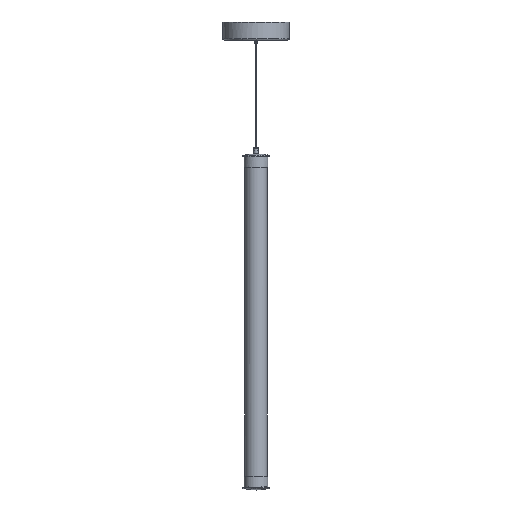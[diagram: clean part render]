
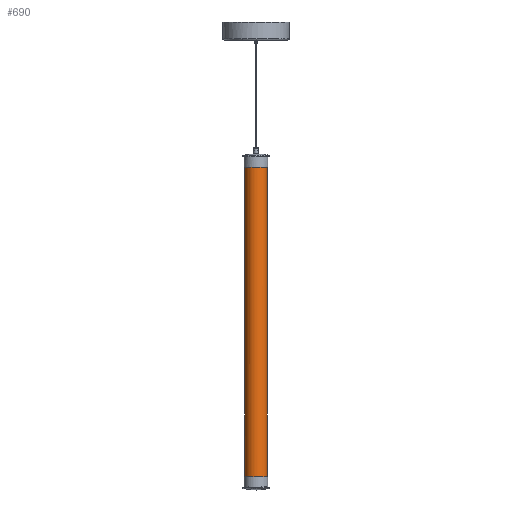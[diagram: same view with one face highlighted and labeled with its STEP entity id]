
A CAD part, front view. The second image highlights one B-rep face of the part: STEP entity #690.
In plain terms, the highlighted cylindrical face has radius 30 mm (diameter 60 mm), a partial arc.
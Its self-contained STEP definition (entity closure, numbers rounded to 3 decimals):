
#690=ADVANCED_FACE('',(#1355),#11094,.T.);
#1355=FACE_OUTER_BOUND('',#2038,.T.);
#2038=EDGE_LOOP('',(#3294,#3295,#3296,#3297));
#3294=ORIENTED_EDGE('',*,*,#6332,.T.);
#3295=ORIENTED_EDGE('',*,*,#6327,.T.);
#3296=ORIENTED_EDGE('',*,*,#6326,.T.);
#3297=ORIENTED_EDGE('',*,*,#6331,.F.);
#6326=EDGE_CURVE('',#9736,#9740,#7950,.T.);
#6327=EDGE_CURVE('',#9733,#9736,#8869,.T.);
#6331=EDGE_CURVE('',#9739,#9740,#8871,.T.);
#6332=EDGE_CURVE('',#9739,#9733,#7953,.T.);
#7950=(
BOUNDED_CURVE()
B_SPLINE_CURVE(2,(#13791,#13792,#13793,#13794,#13795),.UNSPECIFIED.,.F.,
 .F.)
B_SPLINE_CURVE_WITH_KNOTS((3,2,3),(0.,47.124,94.248),
 .UNSPECIFIED.)
CURVE()
GEOMETRIC_REPRESENTATION_ITEM()
RATIONAL_B_SPLINE_CURVE((1.,0.707,1.,0.707,1.))
REPRESENTATION_ITEM('')
);
#7953=(
BOUNDED_CURVE()
B_SPLINE_CURVE(2,(#13812,#13813,#13814,#13815,#13816),.UNSPECIFIED.,.F.,
 .F.)
B_SPLINE_CURVE_WITH_KNOTS((3,2,3),(94.248,141.372,188.496),
 .UNSPECIFIED.)
CURVE()
GEOMETRIC_REPRESENTATION_ITEM()
RATIONAL_B_SPLINE_CURVE((1.,0.707,1.,0.707,1.))
REPRESENTATION_ITEM('')
);
#8869=B_SPLINE_CURVE_WITH_KNOTS('',1,(#13796,#13797),.UNSPECIFIED.,.F.,
 .F.,(2,2),(87.22,958.22),.UNSPECIFIED.);
#8871=B_SPLINE_CURVE_WITH_KNOTS('',1,(#13810,#13811),.UNSPECIFIED.,.F.,
 .F.,(2,2),(87.22,958.22),.UNSPECIFIED.);
#9733=VERTEX_POINT('',#13766);
#9736=VERTEX_POINT('',#13769);
#9739=VERTEX_POINT('',#13772);
#9740=VERTEX_POINT('',#13773);
#11094=CYLINDRICAL_SURFACE('',#11473,30.);
#11473=AXIS2_PLACEMENT_3D('',#13765,#12010,$);
#12010=DIRECTION('',(0.,0.,-1.));
#13765=CARTESIAN_POINT('',(0.,0.,-818.564));
#13766=CARTESIAN_POINT('',(-30.,0.,-383.064));
#13769=CARTESIAN_POINT('',(-30.,0.,-1254.064));
#13772=CARTESIAN_POINT('',(30.,0.,-383.064));
#13773=CARTESIAN_POINT('',(30.,0.,-1254.064));
#13791=CARTESIAN_POINT('',(-30.,0.,-1254.064));
#13792=CARTESIAN_POINT('',(-30.,-30.,-1254.064));
#13793=CARTESIAN_POINT('',(0.,-30.,-1254.064));
#13794=CARTESIAN_POINT('',(30.,-30.,-1254.064));
#13795=CARTESIAN_POINT('',(30.,0.,-1254.064));
#13796=CARTESIAN_POINT('',(-30.,0.,-383.064));
#13797=CARTESIAN_POINT('',(-30.,0.,-1254.064));
#13810=CARTESIAN_POINT('',(30.,0.,-383.064));
#13811=CARTESIAN_POINT('',(30.,0.,-1254.064));
#13812=CARTESIAN_POINT('',(30.,0.,-383.064));
#13813=CARTESIAN_POINT('',(30.,-30.,-383.064));
#13814=CARTESIAN_POINT('',(0.,-30.,-383.064));
#13815=CARTESIAN_POINT('',(-30.,-30.,-383.064));
#13816=CARTESIAN_POINT('',(-30.,0.,-383.064));
